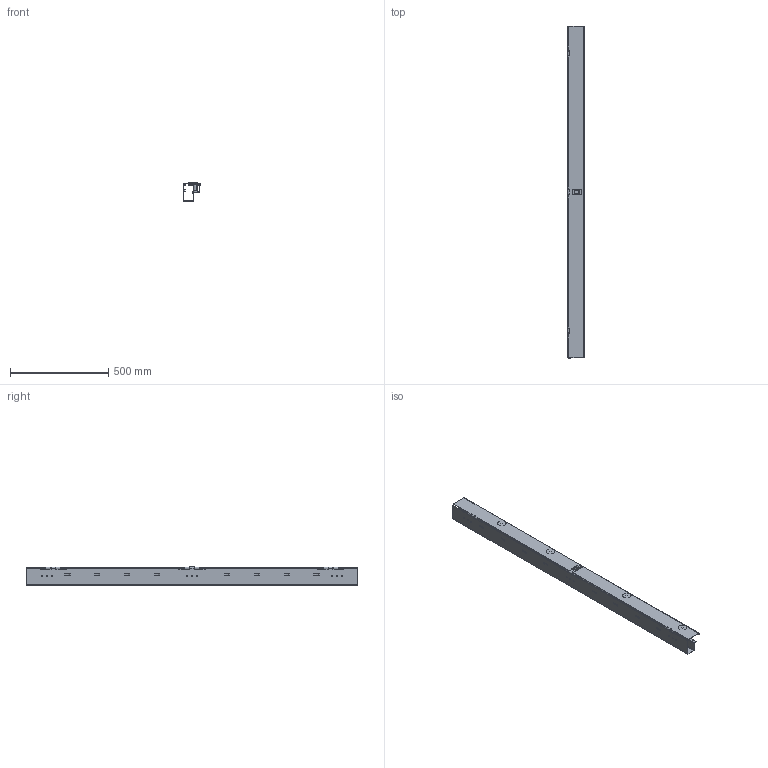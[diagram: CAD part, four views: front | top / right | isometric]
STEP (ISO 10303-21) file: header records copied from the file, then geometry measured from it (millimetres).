
FILE_DESCRIPTION(( 'STEP AP203 file generated by I-DEAS Master Series'),'2;1');
FILE_NAME('D:\a00506\p-vcm187.stp','2001-10-12T09:41:52',('A00506'),( 'unspecified'),'I-DEAS Master Series 7m2 : Design', 'I-DEAS Master Series 7m2 : Design','unspecified');
FILE_SCHEMA(('CONFIG_CONTROL_DESIGN'));
Length unit declared in the file: millimetre
Assembly tree (11 placements, depth 0):
Bounding box: 85.57 x 1689.61 x 93.44 mm (x, y, z)
Volume: 810996.4 mm3; surface area: 957686.3 mm2
Topology: 11 solids, 11 shells, 673 faces, 1605 edges, 948 vertices
Faces by surface type: bspline 673
Entity records: 19981 total; most frequent: CARTESIAN_POINT 9531, ORIENTED_EDGE 3086, EDGE_CURVE 1543, VERTEX_POINT 910, EDGE_LOOP 857, QUASI_UNIFORM_CURVE 695, FACE_OUTER_BOUND 633, ADVANCED_FACE 633
